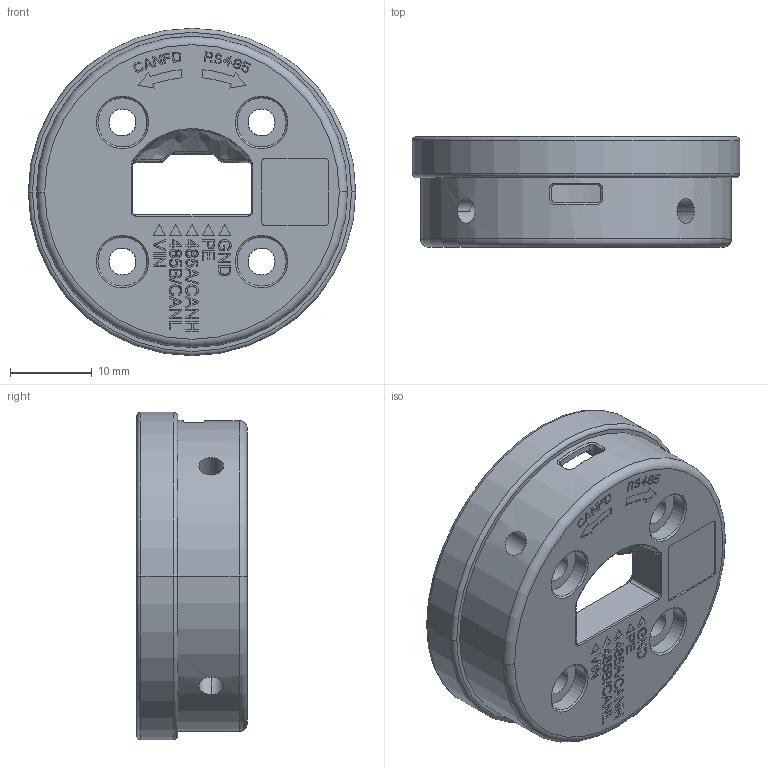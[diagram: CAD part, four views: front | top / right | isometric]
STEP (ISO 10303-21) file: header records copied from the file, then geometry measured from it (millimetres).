
FILE_DESCRIPTION((''),'2;1');
FILE_NAME('00-WRIST-FR','2026-06-04T17:16:58',('76495'),(''),'CREO PARAMETRIC BY PTC INC, 2022284','CREO PARAMETRIC BY PTC INC, 2022284','');
FILE_SCHEMA(('CONFIG_CONTROL_DESIGN'));
Length unit declared in the file: millimetre
Products named in the file (1): 00-WRIST-FR
Bounding box: 40 x 13.5 x 40 mm (x, y, z)
Volume: 5431.1 mm3; surface area: 6234.6 mm2
Topology: 1 solids, 1 shells, 1050 faces, 2882 edges, 1903 vertices
Faces by surface type: plane 664, extrusion 218, cylinder 113, bspline 31, cone 18, torus 6
Entity records: 35858 total; most frequent: CARTESIAN_POINT 10009, ORIENTED_EDGE 5760, DIRECTION 4446, EDGE_CURVE 2880, VECTOR 2300, LINE 2082, VERTEX_POINT 1903, EDGE_LOOP 1133
